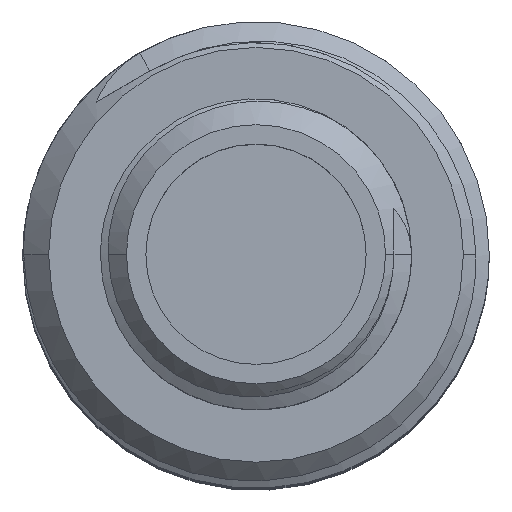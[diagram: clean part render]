
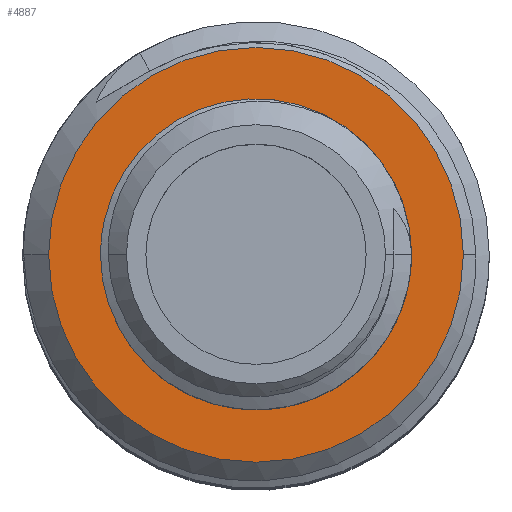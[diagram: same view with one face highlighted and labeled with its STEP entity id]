
A CAD part, top view. The second image highlights one B-rep face of the part: STEP entity #4887.
In plain terms, the highlighted planar face has unit normal (0, 0, 1).
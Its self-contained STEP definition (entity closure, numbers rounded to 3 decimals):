
#15 = CIRCLE ( 'NONE', #6788, 5.3 ) ;
#236 = FACE_BOUND ( 'NONE', #541, .T. ) ;
#518 = VERTEX_POINT ( 'NONE', #8906 ) ;
#524 = EDGE_CURVE ( 'NONE', #4576, #588, #2858, .T. ) ;
#541 = EDGE_LOOP ( 'NONE', ( #7885, #9259 ) ) ;
#579 = CARTESIAN_POINT ( 'NONE',  ( 0., 0., 52. ) ) ;
#588 = VERTEX_POINT ( 'NONE', #9159 ) ;
#1073 = EDGE_CURVE ( 'NONE', #6775, #518, #15, .T. ) ;
#1121 = EDGE_CURVE ( 'NONE', #518, #6775, #6768, .T. ) ;
#1129 = DIRECTION ( 'NONE',  ( 0., 0., 1. ) ) ;
#1198 = CIRCLE ( 'NONE', #6112, 8. ) ;
#1325 = DIRECTION ( 'NONE',  ( 0., 0., 1. ) ) ;
#1782 = CARTESIAN_POINT ( 'NONE',  ( 0., 0., 52. ) ) ;
#1840 = DIRECTION ( 'NONE',  ( 1., 0., 0. ) ) ;
#1891 = CARTESIAN_POINT ( 'NONE',  ( 0., 0., 52. ) ) ;
#2630 = DIRECTION ( 'NONE',  ( 0., 0., 1. ) ) ;
#2858 = CIRCLE ( 'NONE', #3344, 8. ) ;
#3344 = AXIS2_PLACEMENT_3D ( 'NONE', #579, #1325, #6663 ) ;
#3455 = AXIS2_PLACEMENT_3D ( 'NONE', #6423, #8679, #1840 ) ;
#3460 = DIRECTION ( 'NONE',  ( 1., 0., 0. ) ) ;
#3970 = AXIS2_PLACEMENT_3D ( 'NONE', #4826, #1129, #3460 ) ;
#4576 = VERTEX_POINT ( 'NONE', #6831 ) ;
#4826 = CARTESIAN_POINT ( 'NONE',  ( 0., 0., 52. ) ) ;
#4887 = ADVANCED_FACE ( 'NONE', ( #6365, #236 ), #5577, .T. ) ;
#5577 = PLANE ( 'NONE',  #3970 ) ;
#6112 = AXIS2_PLACEMENT_3D ( 'NONE', #1782, #2630, #9366 ) ;
#6267 = EDGE_LOOP ( 'NONE', ( #7405, #9093 ) ) ;
#6365 = FACE_OUTER_BOUND ( 'NONE', #6267, .T. ) ;
#6423 = CARTESIAN_POINT ( 'NONE',  ( 0., 0., 52. ) ) ;
#6663 = DIRECTION ( 'NONE',  ( 1., 0., 0. ) ) ;
#6768 = CIRCLE ( 'NONE', #3455, 5.3 ) ;
#6775 = VERTEX_POINT ( 'NONE', #7118 ) ;
#6788 = AXIS2_PLACEMENT_3D ( 'NONE', #1891, #7224, #7445 ) ;
#6831 = CARTESIAN_POINT ( 'NONE',  ( 8., 0., 52. ) ) ;
#7118 = CARTESIAN_POINT ( 'NONE',  ( -5.3, 0., 52. ) ) ;
#7224 = DIRECTION ( 'NONE',  ( 0., 0., 1. ) ) ;
#7405 = ORIENTED_EDGE ( 'NONE', *, *, #9303, .T. ) ;
#7445 = DIRECTION ( 'NONE',  ( 1., 0., 0. ) ) ;
#7885 = ORIENTED_EDGE ( 'NONE', *, *, #1073, .F. ) ;
#8679 = DIRECTION ( 'NONE',  ( 0., 0., 1. ) ) ;
#8906 = CARTESIAN_POINT ( 'NONE',  ( 5.3, 0., 52. ) ) ;
#9093 = ORIENTED_EDGE ( 'NONE', *, *, #524, .T. ) ;
#9159 = CARTESIAN_POINT ( 'NONE',  ( -8., 0., 52. ) ) ;
#9259 = ORIENTED_EDGE ( 'NONE', *, *, #1121, .F. ) ;
#9303 = EDGE_CURVE ( 'NONE', #588, #4576, #1198, .T. ) ;
#9366 = DIRECTION ( 'NONE',  ( 1., 0., 0. ) ) ;
